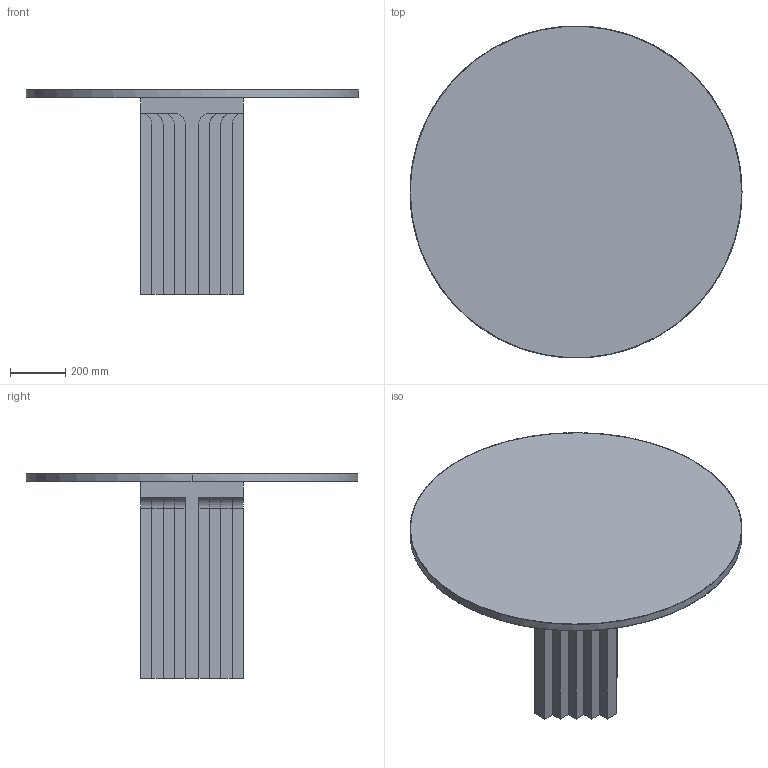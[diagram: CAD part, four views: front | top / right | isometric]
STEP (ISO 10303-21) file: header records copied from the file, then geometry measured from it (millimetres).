
FILE_DESCRIPTION(/* description */ (''),/* implementation_level */ '2;1');
FILE_NAME(/* name */ 'Arc Dining Table Ø120 cm',/* time_stamp */ '2025-06-24T12:07:30+02:00',/* author */ (''),/* organization */ (''),/* preprocessor_version */ 'ST-DEVELOPER v16.5',/* originating_system */ 'Rhino 7.38',/* authorisation */ '');
FILE_SCHEMA (('CONFIG_CONTROL_DESIGN'));
Length unit declared in the file: millimetre
Products named in the file (1): Document
Bounding box: 1200 x 1199.41 x 740 mm (x, y, z)
Volume: 89091086.6 mm3; surface area: 3688762.3 mm2
Topology: 2 solids, 2 shells, 78 faces, 218 edges, 144 vertices
Faces by surface type: bspline 78
Entity records: 5690 total; most frequent: CARTESIAN_POINT 2830, B_SPLINE_CURVE_WITH_KNOTS 588, ORIENTED_EDGE 436, PCURVE 436, DEFINITIONAL_REPRESENTATION 436, SURFACE_CURVE 218, EDGE_CURVE 218, VERTEX_POINT 144
